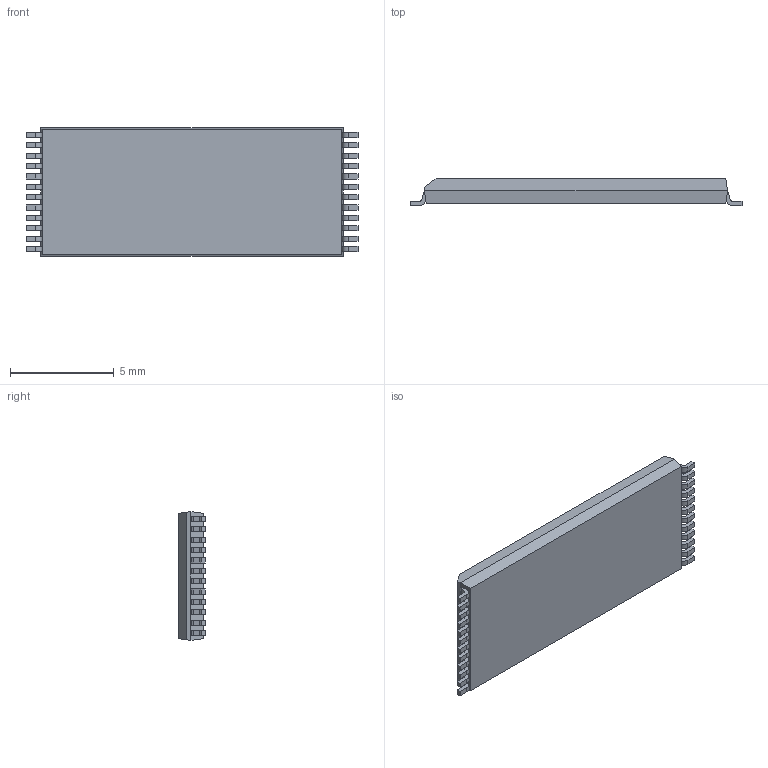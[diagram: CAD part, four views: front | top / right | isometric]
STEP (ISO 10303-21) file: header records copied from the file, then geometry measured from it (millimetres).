
FILE_DESCRIPTION (( 'STEP AP214' ), '1' );
FILE_NAME ('TSSOP50P1600-24.STEP', '2011-01-31T08:29:39', ( 'vpeshkov' ), ( 'licard' ), 'SwSTEP 2.0', 'SolidWorks 2009', '' );
FILE_SCHEMA (( 'AUTOMOTIVE_DESIGN' ));
Length unit declared in the file: millimetre
Products named in the file (1): TSSOP50P1600-24
Bounding box: 16 x 1.3 x 6.2 mm (x, y, z)
Volume: 107.1 mm3; surface area: 242.3 mm2
Topology: 1 solids, 1 shells, 254 faces, 677 edges, 450 vertices
Faces by surface type: plane 180, cylinder 74
Entity records: 10551 total; most frequent: CARTESIAN_POINT 1382, ORIENTED_EDGE 1354, DIRECTION 1335, EDGE_CURVE 677, VECTOR 529, LINE 529, VERTEX_POINT 450, AXIS2_PLACEMENT_3D 403
